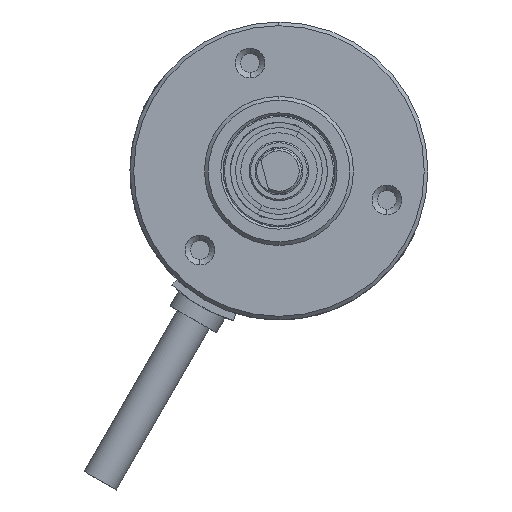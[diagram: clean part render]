
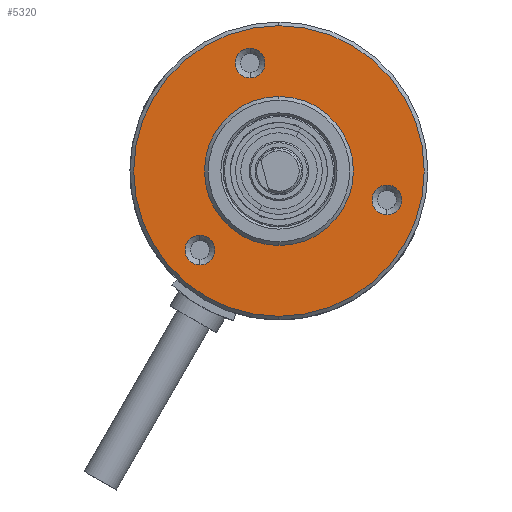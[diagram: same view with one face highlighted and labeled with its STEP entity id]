
A CAD part, front view. The second image highlights one B-rep face of the part: STEP entity #5320.
In plain terms, the highlighted planar face has unit normal (0, -1, 0).
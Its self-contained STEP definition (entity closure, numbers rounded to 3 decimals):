
#21 = DIRECTION ( 'NONE',  ( 0., 0., -1. ) ) ;
#57 = CARTESIAN_POINT ( 'NONE',  ( -10.607, 0., -12.607 ) ) ;
#80 = CARTESIAN_POINT ( 'NONE',  ( 0., 0., -10. ) ) ;
#129 = DIRECTION ( 'NONE',  ( 0., -1., 0. ) ) ;
#136 = CARTESIAN_POINT ( 'NONE',  ( 0., 0., -19.5 ) ) ;
#145 = AXIS2_PLACEMENT_3D ( 'NONE', #5908, #2077, #1728 ) ;
#227 = ORIENTED_EDGE ( 'NONE', *, *, #3792, .T. ) ;
#326 = EDGE_LOOP ( 'NONE', ( #227, #1212 ) ) ;
#332 = VERTEX_POINT ( 'NONE', #4646 ) ;
#528 = FACE_BOUND ( 'NONE', #4817, .T. ) ;
#660 = CARTESIAN_POINT ( 'NONE',  ( 0., 0., 19.5 ) ) ;
#686 = EDGE_CURVE ( 'NONE', #2719, #5704, #4275, .T. ) ;
#727 = CARTESIAN_POINT ( 'NONE',  ( 0., 0., 10. ) ) ;
#740 = CIRCLE ( 'NONE', #1286, 2. ) ;
#823 = FACE_OUTER_BOUND ( 'NONE', #326, .T. ) ;
#833 = EDGE_CURVE ( 'NONE', #4758, #3122, #740, .T. ) ;
#1007 = EDGE_CURVE ( 'NONE', #3122, #4758, #2009, .T. ) ;
#1201 = ORIENTED_EDGE ( 'NONE', *, *, #1977, .F. ) ;
#1212 = ORIENTED_EDGE ( 'NONE', *, *, #5832, .T. ) ;
#1272 = AXIS2_PLACEMENT_3D ( 'NONE', #1455, #1499, #3912 ) ;
#1286 = AXIS2_PLACEMENT_3D ( 'NONE', #2842, #3370, #21 ) ;
#1326 = ORIENTED_EDGE ( 'NONE', *, *, #686, .F. ) ;
#1340 = CARTESIAN_POINT ( 'NONE',  ( 14.489, 0., -3.882 ) ) ;
#1362 = DIRECTION ( 'NONE',  ( 0., -1., 0. ) ) ;
#1399 = CARTESIAN_POINT ( 'NONE',  ( 14.489, 0., -1.882 ) ) ;
#1455 = CARTESIAN_POINT ( 'NONE',  ( 0., 0., 0. ) ) ;
#1499 = DIRECTION ( 'NONE',  ( 0., -1., 0. ) ) ;
#1501 = ORIENTED_EDGE ( 'NONE', *, *, #3140, .F. ) ;
#1613 = DIRECTION ( 'NONE',  ( 0., -1., 0. ) ) ;
#1617 = DIRECTION ( 'NONE',  ( 0., 0., -1. ) ) ;
#1622 = CARTESIAN_POINT ( 'NONE',  ( 0., 0., 0. ) ) ;
#1728 = DIRECTION ( 'NONE',  ( 0., 0., -1. ) ) ;
#1755 = EDGE_CURVE ( 'NONE', #5704, #2719, #3261, .T. ) ;
#1798 = CIRCLE ( 'NONE', #3481, 19.5 ) ;
#1872 = DIRECTION ( 'NONE',  ( 0., -1., 0. ) ) ;
#1960 = CARTESIAN_POINT ( 'NONE',  ( -20., 0., 0. ) ) ;
#1977 = EDGE_CURVE ( 'NONE', #5363, #332, #4310, .T. ) ;
#2009 = CIRCLE ( 'NONE', #3878, 2. ) ;
#2077 = DIRECTION ( 'NONE',  ( 0., -1., 0. ) ) ;
#2192 = FACE_BOUND ( 'NONE', #6130, .T. ) ;
#2441 = DIRECTION ( 'NONE',  ( 0., 0., 1. ) ) ;
#2464 = PLANE ( 'NONE',  #4513 ) ;
#2545 = DIRECTION ( 'NONE',  ( 0., -1., 0. ) ) ;
#2598 = DIRECTION ( 'NONE',  ( 0., 0., 1. ) ) ;
#2613 = DIRECTION ( 'NONE',  ( 0., -1., 0. ) ) ;
#2705 = ORIENTED_EDGE ( 'NONE', *, *, #4190, .F. ) ;
#2719 = VERTEX_POINT ( 'NONE', #57 ) ;
#2842 = CARTESIAN_POINT ( 'NONE',  ( 14.489, 0., -3.882 ) ) ;
#3011 = CARTESIAN_POINT ( 'NONE',  ( 14.489, 0., -5.882 ) ) ;
#3093 = FACE_BOUND ( 'NONE', #4733, .T. ) ;
#3122 = VERTEX_POINT ( 'NONE', #1399 ) ;
#3140 = EDGE_CURVE ( 'NONE', #332, #5363, #5218, .T. ) ;
#3179 = ORIENTED_EDGE ( 'NONE', *, *, #4555, .F. ) ;
#3261 = CIRCLE ( 'NONE', #4780, 2. ) ;
#3298 = AXIS2_PLACEMENT_3D ( 'NONE', #4063, #1613, #4453 ) ;
#3316 = CARTESIAN_POINT ( 'NONE',  ( 0., 0., 0. ) ) ;
#3370 = DIRECTION ( 'NONE',  ( 0., -1., 0. ) ) ;
#3481 = AXIS2_PLACEMENT_3D ( 'NONE', #1622, #129, #2598 ) ;
#3590 = DIRECTION ( 'NONE',  ( 0., 0., -1. ) ) ;
#3792 = EDGE_CURVE ( 'NONE', #3855, #4825, #1798, .T. ) ;
#3803 = DIRECTION ( 'NONE',  ( 0., -1., 0. ) ) ;
#3855 = VERTEX_POINT ( 'NONE', #660 ) ;
#3878 = AXIS2_PLACEMENT_3D ( 'NONE', #1340, #3803, #5647 ) ;
#3912 = DIRECTION ( 'NONE',  ( 0., 0., -1. ) ) ;
#4048 = CARTESIAN_POINT ( 'NONE',  ( 0., 0., 0. ) ) ;
#4063 = CARTESIAN_POINT ( 'NONE',  ( -3.882, 0., 14.489 ) ) ;
#4145 = CARTESIAN_POINT ( 'NONE',  ( -10.607, 0., -10.607 ) ) ;
#4190 = EDGE_CURVE ( 'NONE', #4593, #5651, #4714, .T. ) ;
#4275 = CIRCLE ( 'NONE', #145, 2. ) ;
#4284 = DIRECTION ( 'NONE',  ( 0., 0., 1. ) ) ;
#4310 = CIRCLE ( 'NONE', #3298, 2. ) ;
#4317 = CARTESIAN_POINT ( 'NONE',  ( -3.882, 0., 16.489 ) ) ;
#4322 = DIRECTION ( 'NONE',  ( 0., 0., -1. ) ) ;
#4357 = DIRECTION ( 'NONE',  ( 0., 1., 0. ) ) ;
#4437 = ORIENTED_EDGE ( 'NONE', *, *, #1755, .F. ) ;
#4453 = DIRECTION ( 'NONE',  ( 0., 0., -1. ) ) ;
#4513 = AXIS2_PLACEMENT_3D ( 'NONE', #1960, #4357, #2441 ) ;
#4555 = EDGE_CURVE ( 'NONE', #5651, #4593, #5978, .T. ) ;
#4593 = VERTEX_POINT ( 'NONE', #80 ) ;
#4646 = CARTESIAN_POINT ( 'NONE',  ( -3.882, 0., 12.489 ) ) ;
#4714 = CIRCLE ( 'NONE', #5270, 10. ) ;
#4733 = EDGE_LOOP ( 'NONE', ( #6148, #6158 ) ) ;
#4758 = VERTEX_POINT ( 'NONE', #3011 ) ;
#4780 = AXIS2_PLACEMENT_3D ( 'NONE', #4145, #2613, #3590 ) ;
#4817 = EDGE_LOOP ( 'NONE', ( #1326, #4437 ) ) ;
#4825 = VERTEX_POINT ( 'NONE', #136 ) ;
#5218 = CIRCLE ( 'NONE', #6101, 2. ) ;
#5270 = AXIS2_PLACEMENT_3D ( 'NONE', #4048, #2545, #1617 ) ;
#5320 = ADVANCED_FACE ( 'NONE', ( #823, #5630, #3093, #528, #2192 ), #2464, .F. ) ;
#5363 = VERTEX_POINT ( 'NONE', #4317 ) ;
#5628 = CARTESIAN_POINT ( 'NONE',  ( -10.607, 0., -8.607 ) ) ;
#5630 = FACE_BOUND ( 'NONE', #6058, .T. ) ;
#5647 = DIRECTION ( 'NONE',  ( 0., 0., -1. ) ) ;
#5651 = VERTEX_POINT ( 'NONE', #727 ) ;
#5657 = CIRCLE ( 'NONE', #5887, 19.5 ) ;
#5700 = CARTESIAN_POINT ( 'NONE',  ( -3.882, 0., 14.489 ) ) ;
#5704 = VERTEX_POINT ( 'NONE', #5628 ) ;
#5832 = EDGE_CURVE ( 'NONE', #4825, #3855, #5657, .T. ) ;
#5887 = AXIS2_PLACEMENT_3D ( 'NONE', #3316, #1872, #4284 ) ;
#5908 = CARTESIAN_POINT ( 'NONE',  ( -10.607, 0., -10.607 ) ) ;
#5978 = CIRCLE ( 'NONE', #1272, 10. ) ;
#6058 = EDGE_LOOP ( 'NONE', ( #1501, #1201 ) ) ;
#6101 = AXIS2_PLACEMENT_3D ( 'NONE', #5700, #1362, #4322 ) ;
#6130 = EDGE_LOOP ( 'NONE', ( #2705, #3179 ) ) ;
#6148 = ORIENTED_EDGE ( 'NONE', *, *, #833, .F. ) ;
#6158 = ORIENTED_EDGE ( 'NONE', *, *, #1007, .F. ) ;
